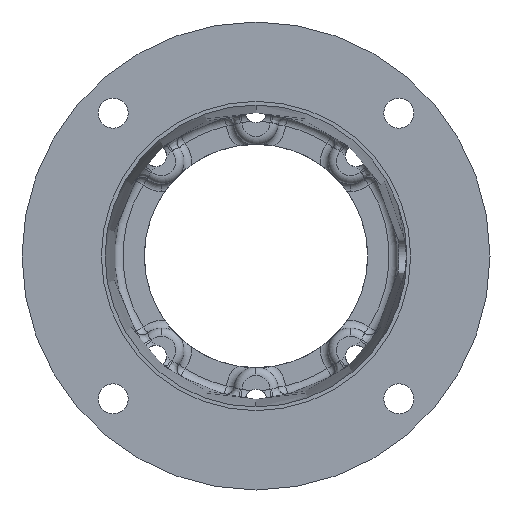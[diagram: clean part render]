
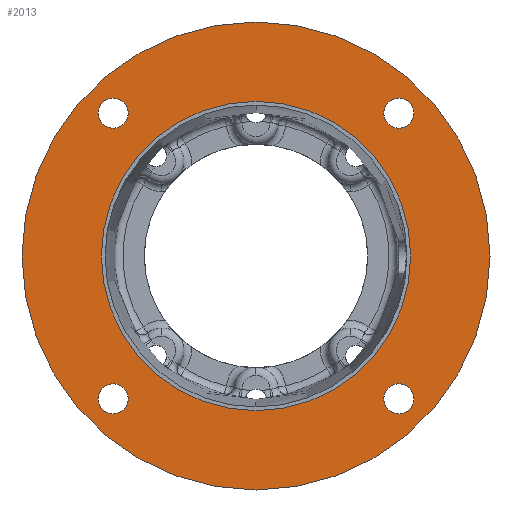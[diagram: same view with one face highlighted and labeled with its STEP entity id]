
A CAD part, front view. The second image highlights one B-rep face of the part: STEP entity #2013.
In plain terms, the highlighted planar face has unit normal (0, -1, 0).
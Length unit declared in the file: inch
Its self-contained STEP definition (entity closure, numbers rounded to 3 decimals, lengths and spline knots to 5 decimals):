
#960 = EDGE_CURVE ( 'NONE', #962, #961, #5281, .T. ) ;
#961 = VERTEX_POINT ( 'NONE', #5277 ) ;
#962 = VERTEX_POINT ( 'NONE', #5276 ) ;
#1396 = VERTEX_POINT ( 'NONE', #6341 ) ;
#1398 = EDGE_CURVE ( 'NONE', #1399, #1396, #6340, .T. ) ;
#1399 = VERTEX_POINT ( 'NONE', #6335 ) ;
#1875 = EDGE_CURVE ( 'NONE', #1396, #1399, #7756, .T. ) ;
#1932 = EDGE_CURVE ( 'NONE', #2309, #2378, #7902, .T. ) ;
#1933 = ORIENTED_EDGE ( 'NONE', *, *, #2380, .F. ) ;
#1934 = EDGE_LOOP ( 'NONE', ( #1935, #1937 ) ) ;
#1935 = ORIENTED_EDGE ( 'NONE', *, *, #1936, .T. ) ;
#1936 = EDGE_CURVE ( 'NONE', #961, #962, #7897, .T. ) ;
#1937 = ORIENTED_EDGE ( 'NONE', *, *, #960, .T. ) ;
#1938 = EDGE_LOOP ( 'NONE', ( #1939, #2000 ) ) ;
#1939 = ORIENTED_EDGE ( 'NONE', *, *, #1940, .T. ) ;
#1940 = EDGE_CURVE ( 'NONE', #2536, #2545, #7892, .T. ) ;
#2000 = ORIENTED_EDGE ( 'NONE', *, *, #2535, .T. ) ;
#2001 = EDGE_LOOP ( 'NONE', ( #2002, #2004 ) ) ;
#2002 = ORIENTED_EDGE ( 'NONE', *, *, #2003, .T. ) ;
#2003 = EDGE_CURVE ( 'NONE', #2472, #2471, #8037, .T. ) ;
#2004 = ORIENTED_EDGE ( 'NONE', *, *, #2555, .T. ) ;
#2005 = EDGE_LOOP ( 'NONE', ( #2006, #2008 ) ) ;
#2006 = ORIENTED_EDGE ( 'NONE', *, *, #2007, .T. ) ;
#2007 = EDGE_CURVE ( 'NONE', #2528, #2531, #8032, .T. ) ;
#2008 = ORIENTED_EDGE ( 'NONE', *, *, #2530, .T. ) ;
#2009 = EDGE_LOOP ( 'NONE', ( #2010, #2011 ) ) ;
#2010 = ORIENTED_EDGE ( 'NONE', *, *, #1398, .T. ) ;
#2011 = ORIENTED_EDGE ( 'NONE', *, *, #1875, .T. ) ;
#2013 = ADVANCED_FACE ( 'NONE', ( #8027, #8026, #8025, #8024, #8023, #8022 ), #8021, .F. ) ;
#2014 = EDGE_LOOP ( 'NONE', ( #2015, #1933 ) ) ;
#2015 = ORIENTED_EDGE ( 'NONE', *, *, #1932, .F. ) ;
#2309 = VERTEX_POINT ( 'NONE', #8698 ) ;
#2378 = VERTEX_POINT ( 'NONE', #8957 ) ;
#2380 = EDGE_CURVE ( 'NONE', #2378, #2309, #8956, .T. ) ;
#2471 = VERTEX_POINT ( 'NONE', #9122 ) ;
#2472 = VERTEX_POINT ( 'NONE', #9121 ) ;
#2528 = VERTEX_POINT ( 'NONE', #9313 ) ;
#2530 = EDGE_CURVE ( 'NONE', #2531, #2528, #9311, .T. ) ;
#2531 = VERTEX_POINT ( 'NONE', #9306 ) ;
#2535 = EDGE_CURVE ( 'NONE', #2545, #2536, #9299, .T. ) ;
#2536 = VERTEX_POINT ( 'NONE', #9294 ) ;
#2545 = VERTEX_POINT ( 'NONE', #9344 ) ;
#2555 = EDGE_CURVE ( 'NONE', #2471, #2472, #9323, .T. ) ;
#5276 = CARTESIAN_POINT ( 'NONE',  ( 2.07889, 0., -2.29764 ) ) ;
#5277 = CARTESIAN_POINT ( 'NONE',  ( 2.07889, 0., -1.86014 ) ) ;
#5278 = DIRECTION ( 'NONE',  ( 0., 0., 1. ) ) ;
#5279 = DIRECTION ( 'NONE',  ( 0., 1., 0. ) ) ;
#5280 = AXIS2_PLACEMENT_3D ( 'NONE', #5288, #5279, #5278 ) ;
#5281 = CIRCLE ( 'NONE', #5280, 0.21875 ) ;
#5288 = CARTESIAN_POINT ( 'NONE',  ( 2.07889, 0., -2.07889 ) ) ;
#6335 = CARTESIAN_POINT ( 'NONE',  ( 0., 0., -3.405 ) ) ;
#6336 = DIRECTION ( 'NONE',  ( 0., 0., -1. ) ) ;
#6337 = DIRECTION ( 'NONE',  ( 0., -1., 0. ) ) ;
#6338 = CARTESIAN_POINT ( 'NONE',  ( 0., 0., 0. ) ) ;
#6339 = AXIS2_PLACEMENT_3D ( 'NONE', #6338, #6337, #6336 ) ;
#6340 = CIRCLE ( 'NONE', #6339, 3.405 ) ;
#6341 = CARTESIAN_POINT ( 'NONE',  ( 0., 0., 3.405 ) ) ;
#7753 = DIRECTION ( 'NONE',  ( 0., -1., 0. ) ) ;
#7754 = CARTESIAN_POINT ( 'NONE',  ( 0., 0., 0. ) ) ;
#7755 = AXIS2_PLACEMENT_3D ( 'NONE', #7754, #7753, #7816 ) ;
#7756 = CIRCLE ( 'NONE', #7755, 3.405 ) ;
#7816 = DIRECTION ( 'NONE',  ( 0., 0., -1. ) ) ;
#7888 = DIRECTION ( 'NONE',  ( 0., 0., 1. ) ) ;
#7889 = DIRECTION ( 'NONE',  ( 0., 1., 0. ) ) ;
#7890 = CARTESIAN_POINT ( 'NONE',  ( -2.07889, 0., -2.07889 ) ) ;
#7891 = AXIS2_PLACEMENT_3D ( 'NONE', #7890, #7889, #7888 ) ;
#7892 = CIRCLE ( 'NONE', #7891, 0.21875 ) ;
#7893 = DIRECTION ( 'NONE',  ( 0., 0., 1. ) ) ;
#7894 = DIRECTION ( 'NONE',  ( 0., 1., 0. ) ) ;
#7895 = CARTESIAN_POINT ( 'NONE',  ( 2.07889, 0., -2.07889 ) ) ;
#7896 = AXIS2_PLACEMENT_3D ( 'NONE', #7895, #7894, #7893 ) ;
#7897 = CIRCLE ( 'NONE', #7896, 0.21875 ) ;
#7898 = DIRECTION ( 'NONE',  ( 0., 0., -1. ) ) ;
#7899 = DIRECTION ( 'NONE',  ( 0., -1., 0. ) ) ;
#7900 = CARTESIAN_POINT ( 'NONE',  ( 0., 0., 0. ) ) ;
#7901 = AXIS2_PLACEMENT_3D ( 'NONE', #7900, #7899, #7898 ) ;
#7902 = CIRCLE ( 'NONE', #7901, 2.2505 ) ;
#8017 = DIRECTION ( 'NONE',  ( 0., 0., 1. ) ) ;
#8018 = DIRECTION ( 'NONE',  ( 0., 1., 0. ) ) ;
#8019 = CARTESIAN_POINT ( 'NONE',  ( -2.20315, 0., 0. ) ) ;
#8020 = AXIS2_PLACEMENT_3D ( 'NONE', #8019, #8018, #8017 ) ;
#8021 = PLANE ( 'NONE',  #8020 ) ;
#8022 = FACE_OUTER_BOUND ( 'NONE', #2009, .T. ) ;
#8023 = FACE_BOUND ( 'NONE', #2005, .T. ) ;
#8024 = FACE_BOUND ( 'NONE', #2001, .T. ) ;
#8025 = FACE_BOUND ( 'NONE', #1938, .T. ) ;
#8026 = FACE_BOUND ( 'NONE', #1934, .T. ) ;
#8027 = FACE_BOUND ( 'NONE', #2014, .T. ) ;
#8028 = DIRECTION ( 'NONE',  ( 0., 0., 1. ) ) ;
#8029 = DIRECTION ( 'NONE',  ( 0., 1., 0. ) ) ;
#8030 = CARTESIAN_POINT ( 'NONE',  ( 2.07889, 0., 2.07889 ) ) ;
#8031 = AXIS2_PLACEMENT_3D ( 'NONE', #8030, #8029, #8028 ) ;
#8032 = CIRCLE ( 'NONE', #8031, 0.21875 ) ;
#8033 = DIRECTION ( 'NONE',  ( 0., 0., 1. ) ) ;
#8034 = DIRECTION ( 'NONE',  ( 0., 1., 0. ) ) ;
#8035 = CARTESIAN_POINT ( 'NONE',  ( -2.07889, 0., 2.07889 ) ) ;
#8036 = AXIS2_PLACEMENT_3D ( 'NONE', #8035, #8034, #8033 ) ;
#8037 = CIRCLE ( 'NONE', #8036, 0.21875 ) ;
#8698 = CARTESIAN_POINT ( 'NONE',  ( 0., 0., -2.2505 ) ) ;
#8952 = DIRECTION ( 'NONE',  ( 0., 0., -1. ) ) ;
#8953 = DIRECTION ( 'NONE',  ( 0., -1., 0. ) ) ;
#8954 = CARTESIAN_POINT ( 'NONE',  ( 0., 0., 0. ) ) ;
#8955 = AXIS2_PLACEMENT_3D ( 'NONE', #8954, #8953, #8952 ) ;
#8956 = CIRCLE ( 'NONE', #8955, 2.2505 ) ;
#8957 = CARTESIAN_POINT ( 'NONE',  ( 0., 0., 2.2505 ) ) ;
#9121 = CARTESIAN_POINT ( 'NONE',  ( -2.07889, 0., 2.29764 ) ) ;
#9122 = CARTESIAN_POINT ( 'NONE',  ( -2.07889, 0., 1.86014 ) ) ;
#9294 = CARTESIAN_POINT ( 'NONE',  ( -2.07889, 0., -1.86014 ) ) ;
#9295 = DIRECTION ( 'NONE',  ( 0., 0., 1. ) ) ;
#9296 = DIRECTION ( 'NONE',  ( 0., 1., 0. ) ) ;
#9297 = CARTESIAN_POINT ( 'NONE',  ( -2.07889, 0., -2.07889 ) ) ;
#9298 = AXIS2_PLACEMENT_3D ( 'NONE', #9297, #9296, #9295 ) ;
#9299 = CIRCLE ( 'NONE', #9298, 0.21875 ) ;
#9306 = CARTESIAN_POINT ( 'NONE',  ( 2.07889, 0., 1.86014 ) ) ;
#9307 = DIRECTION ( 'NONE',  ( 0., 0., 1. ) ) ;
#9308 = DIRECTION ( 'NONE',  ( 0., 1., 0. ) ) ;
#9309 = CARTESIAN_POINT ( 'NONE',  ( 2.07889, 0., 2.07889 ) ) ;
#9310 = AXIS2_PLACEMENT_3D ( 'NONE', #9309, #9308, #9307 ) ;
#9311 = CIRCLE ( 'NONE', #9310, 0.21875 ) ;
#9313 = CARTESIAN_POINT ( 'NONE',  ( 2.07889, 0., 2.29764 ) ) ;
#9319 = DIRECTION ( 'NONE',  ( 0., 0., 1. ) ) ;
#9320 = DIRECTION ( 'NONE',  ( 0., 1., 0. ) ) ;
#9321 = CARTESIAN_POINT ( 'NONE',  ( -2.07889, 0., 2.07889 ) ) ;
#9322 = AXIS2_PLACEMENT_3D ( 'NONE', #9321, #9320, #9319 ) ;
#9323 = CIRCLE ( 'NONE', #9322, 0.21875 ) ;
#9344 = CARTESIAN_POINT ( 'NONE',  ( -2.07889, 0., -2.29764 ) ) ;
